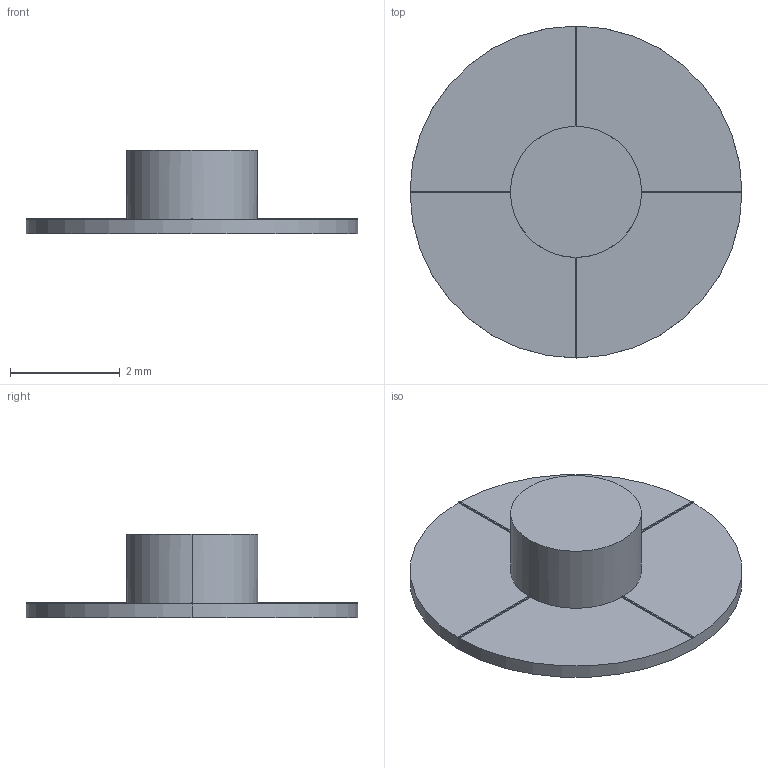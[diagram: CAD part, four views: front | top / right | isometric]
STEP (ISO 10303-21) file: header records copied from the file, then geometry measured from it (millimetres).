
FILE_DESCRIPTION((''),'2;1');
FILE_NAME('CONTACT_SIM_DUMMY-12','2020-09-24T20:55:46',('ccole'),(''),'CREO PARAMETRIC BY PTC INC, 2019292','CREO PARAMETRIC BY PTC INC, 2019292','');
FILE_SCHEMA(('CONFIG_CONTROL_DESIGN'));
Length unit declared in the file: inch
Products named in the file (1): CONTACT_SIM_DUMMY-12
Bounding box: 6.05 x 6.05 x 1.52 mm (x, y, z)
Volume: 13 mm3; surface area: 72.1 mm2
Topology: 1 solids, 1 shells, 26 faces, 64 edges, 40 vertices
Faces by surface type: plane 22, cylinder 4
Entity records: 802 total; most frequent: CARTESIAN_POINT 142, DIRECTION 128, ORIENTED_EDGE 128, EDGE_CURVE 64, AXIS2_PLACEMENT_3D 44, VECTOR 40, LINE 40, VERTEX_POINT 40
